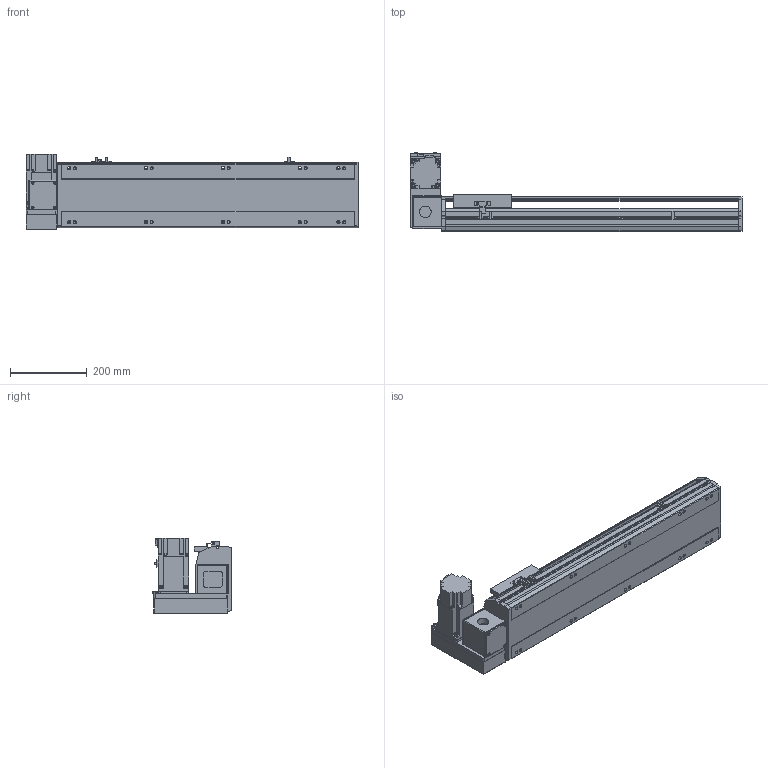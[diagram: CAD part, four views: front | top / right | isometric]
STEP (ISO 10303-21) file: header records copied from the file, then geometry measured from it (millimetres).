
FILE_DESCRIPTION(/* description */ ('STEP AP214'),/* implementation_level */ '2;1');
FILE_NAME(/* name */ 'PBS170-P40-S500-LU-T75-C1-N(0)',/* time_stamp */ '2022-06-07T10:14:20+02:00',/* author */ ('License CC BY-ND 4.0'),/* organization */ ('CADENAS'),/* preprocessor_version */ 'ST-DEVELOPER v18.102',/* originating_system */ 'PARTsolutions',/* authorisation */ ' ');
FILE_SCHEMA (('AUTOMOTIVE_DESIGN {1 0 10303 214 3 1 1}'));
Length unit declared in the file: millimetre
Products named in the file (7): PBS170-P40-S500-LU-T75-C1-N(0); PBS170_sensor; PBS170_plant; PBS170_sliser; T75-p1; PBS170T-LU_motors; PBS170-S500()_body
Assembly tree (8 placements, depth 2):
  PBS170-P40-S500-LU-T75-C1-N(0)
    PBS170_sensor  x3
    PBS170_plant
    PBS170_sliser
    T75-p1
    PBS170T-LU_motors
    PBS170-S500()_body
Bounding box: 863 x 206 x 197.3 mm (x, y, z)
Volume: 7426693.2 mm3; surface area: 1010761.2 mm2
Topology: 8 solids, 8 shells, 1034 faces, 2755 edges, 1796 vertices
Faces by surface type: plane 669, cylinder 315, cone 40, sphere 8, torus 2
Full cylindrical faces by diameter (mm): 3.242 x4, 4 x2, 4.4 x4, 4.5 x6, 4.917 x4, 6 x9, 6.647 x18, 7 x2, 7.5 x4, 8 x8, 8.5 x10, 10 x4, 10.5 x10, 11 x2, 30 x2, 40 x1, 70 x1
Entity records: 29744 total; most frequent: CARTESIAN_POINT 5377, DIRECTION 5090, ORIENTED_EDGE 4848, EDGE_CURVE 2424, AXIS2_PLACEMENT_3D 1747, VERTEX_POINT 1658, LINE 1596, VECTOR 1596
